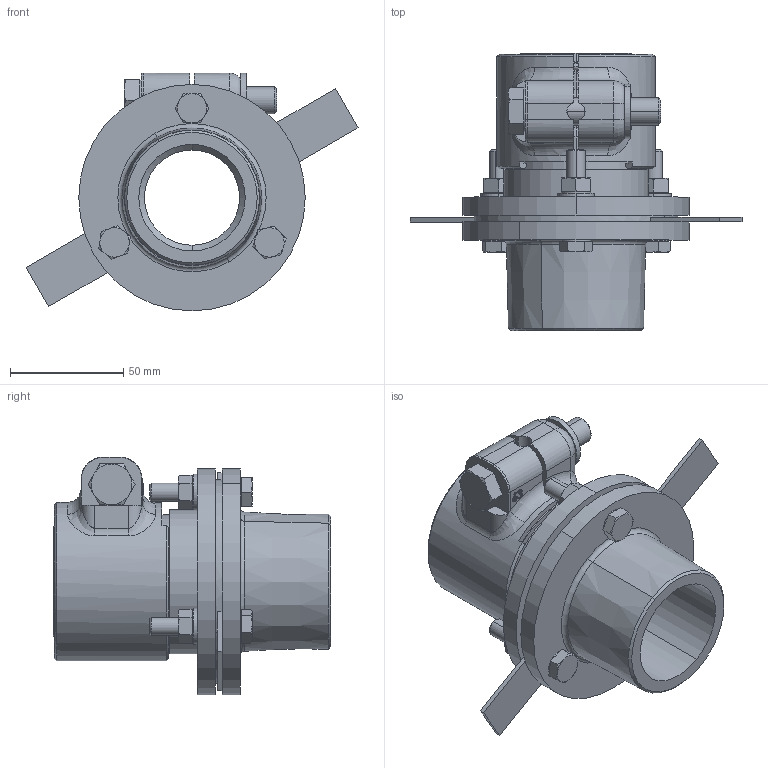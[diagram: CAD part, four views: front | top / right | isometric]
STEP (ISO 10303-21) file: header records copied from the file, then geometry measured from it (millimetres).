
FILE_DESCRIPTION (( 'STEP AP214' ), '1' );
FILE_NAME ('KP_C14-F63M.step', '2012-05-23T14:31:53', ( 'robinj' ), ( 'Microsoft' ), 'SwSTEP 2.0', 'SolidWorks 2012', '' );
FILE_SCHEMA (( 'AUTOMOTIVE_DESIGN' ));
Length unit declared in the file: millimetre
Products named in the file (1): KP_C14-F63M
Bounding box: 146.62 x 122.5 x 105 mm (x, y, z)
Volume: 271568.6 mm3; surface area: 121906 mm2
Topology: 16 solids, 16 shells, 522 faces, 1190 edges, 706 vertices
Faces by surface type: plane 180, cylinder 160, cone 86, bspline 50, torus 38, sphere 8
Entity records: 23984 total; most frequent: CARTESIAN_POINT 6491, DIRECTION 2449, ORIENTED_EDGE 2364, EDGE_CURVE 1182, AXIS2_PLACEMENT_3D 991, VERTEX_POINT 706, EDGE_LOOP 580, UNCERTAINTY_MEASURE_WITH_UNIT 540
